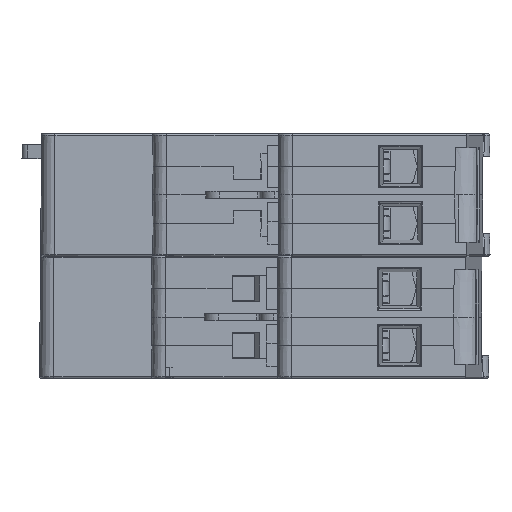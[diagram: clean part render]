
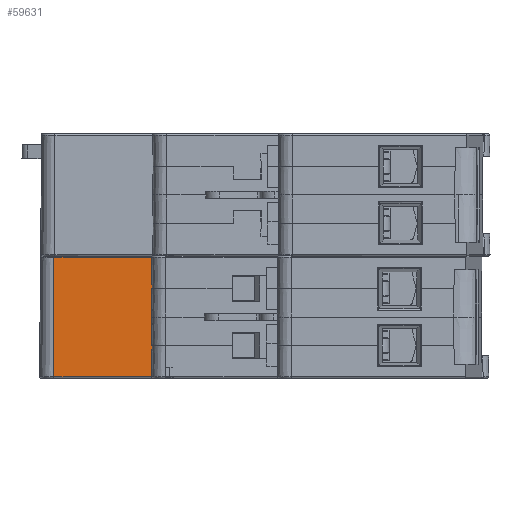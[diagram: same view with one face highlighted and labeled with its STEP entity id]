
A CAD part, left-side view. The second image highlights one B-rep face of the part: STEP entity #59631.
In plain terms, the highlighted planar face has unit normal (-1, 0, 0.009).
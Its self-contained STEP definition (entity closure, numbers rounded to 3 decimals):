
#6496 = AXIS2_PLACEMENT_3D ( 'NONE', #7864, #7866, #7868 ) ;
#7832 = FACE_OUTER_BOUND ( 'NONE', #96228, .T. ) ;
#7835 = PLANE ( 'NONE',  #6496 ) ;
#7864 = CARTESIAN_POINT ( 'NONE',  ( -22.5, 34.835, -17.599 ) ) ;
#7866 = DIRECTION ( 'NONE',  ( 1., 0., -0.009 ) ) ;
#7868 = DIRECTION ( 'NONE',  ( -0.009, 0., -1. ) ) ;
#18025 = VECTOR ( 'NONE', #23188, 1000. ) ;
#19195 = VECTOR ( 'NONE', #26048, 1000. ) ;
#19552 = VECTOR ( 'NONE', #27636, 1000. ) ;
#19864 = VECTOR ( 'NONE', #28567, 1000. ) ;
#20031 = VECTOR ( 'NONE', #104451, 1000. ) ;
#23155 = LINE ( 'NONE', #23165, #18025 ) ;
#23165 = CARTESIAN_POINT ( 'NONE',  ( -22.425, 34.835, -8.997 ) ) ;
#23188 = DIRECTION ( 'NONE',  ( 0., -1., 0. ) ) ;
#23890 = LINE ( 'NONE', #23902, #52234 ) ;
#23902 = CARTESIAN_POINT ( 'NONE',  ( -22.536, 34.835, -21.699 ) ) ;
#23904 = DIRECTION ( 'NONE',  ( 0., -1., 0. ) ) ;
#23996 = LINE ( 'NONE', #23999, #52236 ) ;
#23999 = CARTESIAN_POINT ( 'NONE',  ( -22.536, 43.713, -21.699 ) ) ;
#24001 = DIRECTION ( 'NONE',  ( -0.009, 0.009, -1. ) ) ;
#26042 = LINE ( 'NONE', #26046, #19195 ) ;
#26046 = CARTESIAN_POINT ( 'NONE',  ( -22.464, 43.718, -13.499 ) ) ;
#26048 = DIRECTION ( 'NONE',  ( -0.009, 0.009, -1. ) ) ;
#27632 = LINE ( 'NONE', #27635, #19552 ) ;
#27635 = CARTESIAN_POINT ( 'NONE',  ( -22.5, 43.754, -17.599 ) ) ;
#27636 = DIRECTION ( 'NONE',  ( -0.009, -0.009, -1. ) ) ;
#28489 = LINE ( 'NONE', #28563, #19864 ) ;
#28563 = CARTESIAN_POINT ( 'NONE',  ( -22.425, 43.752, -9. ) ) ;
#28567 = DIRECTION ( 'NONE',  ( -0.009, -0.009, -1. ) ) ;
#31263 = LINE ( 'NONE', #31267, #92792 ) ;
#31267 = CARTESIAN_POINT ( 'NONE',  ( -4377.053, 57.854, -499000. ) ) ;
#31274 = DIRECTION ( 'NONE',  ( 0.009, 0., 1. ) ) ;
#38166 = EDGE_CURVE ( 'NONE', #147544, #83895, #62731, .T. ) ;
#38929 = EDGE_CURVE ( 'NONE', #147133, #147392, #23890, .T. ) ;
#38936 = EDGE_CURVE ( 'NONE', #147392, #147899, #23996, .T. ) ;
#39064 = EDGE_CURVE ( 'NONE', #83895, #83712, #26042, .T. ) ;
#39174 = EDGE_CURVE ( 'NONE', #83712, #147133, #27632, .T. ) ;
#39268 = EDGE_CURVE ( 'NONE', #83871, #147544, #28489, .T. ) ;
#39313 = EDGE_CURVE ( 'NONE', #147899, #147220, #104412, .T. ) ;
#52234 = VECTOR ( 'NONE', #23904, 1000. ) ;
#52236 = VECTOR ( 'NONE', #24001, 1000. ) ;
#58596 = CARTESIAN_POINT ( 'NONE',  ( -22.425, 43.752, -8.997 ) ) ;
#58697 = CARTESIAN_POINT ( 'NONE',  ( -22.425, 43.752, -8.998 ) ) ;
#58726 = CARTESIAN_POINT ( 'NONE',  ( -22.425, 43.752, -8.999 ) ) ;
#58727 = CARTESIAN_POINT ( 'NONE',  ( -22.425, 43.752, -9. ) ) ;
#59631 = ADVANCED_FACE ( 'NONE', ( #7832 ), #7835, .F. ) ;
#62731 = LINE ( 'NONE', #62734, #151931 ) ;
#62734 = CARTESIAN_POINT ( 'NONE',  ( -22.464, 34.835, -13.499 ) ) ;
#62736 = DIRECTION ( 'NONE',  ( 0., 1., 0. ) ) ;
#83712 = VERTEX_POINT ( 'NONE', #89164 ) ;
#83871 = VERTEX_POINT ( 'NONE', #89576 ) ;
#83895 = VERTEX_POINT ( 'NONE', #89645 ) ;
#89164 = CARTESIAN_POINT ( 'NONE',  ( -22.5, 43.754, -17.599 ) ) ;
#89576 = CARTESIAN_POINT ( 'NONE',  ( -22.425, 43.752, -9. ) ) ;
#89645 = CARTESIAN_POINT ( 'NONE',  ( -22.464, 43.718, -13.499 ) ) ;
#92792 = VECTOR ( 'NONE', #31274, 1000. ) ;
#94572 = CARTESIAN_POINT ( 'NONE',  ( -22.536, 43.718, -21.699 ) ) ;
#94673 = CARTESIAN_POINT ( 'NONE',  ( -22.575, 57.854, -26.197 ) ) ;
#94877 = CARTESIAN_POINT ( 'NONE',  ( -22.425, 43.752, -8.997 ) ) ;
#95054 = CARTESIAN_POINT ( 'NONE',  ( -22.536, 43.713, -21.699 ) ) ;
#95076 = CARTESIAN_POINT ( 'NONE',  ( -22.425, 57.854, -8.997 ) ) ;
#95400 = CARTESIAN_POINT ( 'NONE',  ( -22.464, 43.713, -13.499 ) ) ;
#96228 = EDGE_LOOP ( 'NONE', ( #97959, #97964, #97969, #97974, #97978, #97982, #97987, #97991, #97995, #98000 ) ) ;
#96358 = CARTESIAN_POINT ( 'NONE',  ( -22.575, 43.752, -26.197 ) ) ;
#97959 = ORIENTED_EDGE ( 'NONE', *, *, #39313, .F. ) ;
#97964 = ORIENTED_EDGE ( 'NONE', *, *, #38936, .F. ) ;
#97969 = ORIENTED_EDGE ( 'NONE', *, *, #38929, .F. ) ;
#97974 = ORIENTED_EDGE ( 'NONE', *, *, #39174, .F. ) ;
#97978 = ORIENTED_EDGE ( 'NONE', *, *, #39064, .F. ) ;
#97982 = ORIENTED_EDGE ( 'NONE', *, *, #38166, .F. ) ;
#97987 = ORIENTED_EDGE ( 'NONE', *, *, #39268, .F. ) ;
#97991 = ORIENTED_EDGE ( 'NONE', *, *, #104326, .F. ) ;
#97995 = ORIENTED_EDGE ( 'NONE', *, *, #106675, .F. ) ;
#98000 = ORIENTED_EDGE ( 'NONE', *, *, #102782, .F. ) ;
#102782 = EDGE_CURVE ( 'NONE', #147220, #147404, #31263, .T. ) ;
#104326 = EDGE_CURVE ( 'NONE', #147322, #83871, #111770, .T. ) ;
#104409 = CARTESIAN_POINT ( 'NONE',  ( -22.575, 34.835, -26.197 ) ) ;
#104412 = LINE ( 'NONE', #104409, #20031 ) ;
#104451 = DIRECTION ( 'NONE',  ( 0., 1., 0. ) ) ;
#106675 = EDGE_CURVE ( 'NONE', #147404, #147322, #23155, .T. ) ;
#111770 = B_SPLINE_CURVE_WITH_KNOTS ( 'NONE', 3,
 ( #58596, #58697, #58726, #58727 ),
 .UNSPECIFIED., .F., .F.,
 ( 4, 4 ),
 ( 0., 1. ),
 .UNSPECIFIED. ) ;
#147133 = VERTEX_POINT ( 'NONE', #94572 ) ;
#147220 = VERTEX_POINT ( 'NONE', #94673 ) ;
#147322 = VERTEX_POINT ( 'NONE', #94877 ) ;
#147392 = VERTEX_POINT ( 'NONE', #95054 ) ;
#147404 = VERTEX_POINT ( 'NONE', #95076 ) ;
#147544 = VERTEX_POINT ( 'NONE', #95400 ) ;
#147899 = VERTEX_POINT ( 'NONE', #96358 ) ;
#151931 = VECTOR ( 'NONE', #62736, 1000. ) ;
